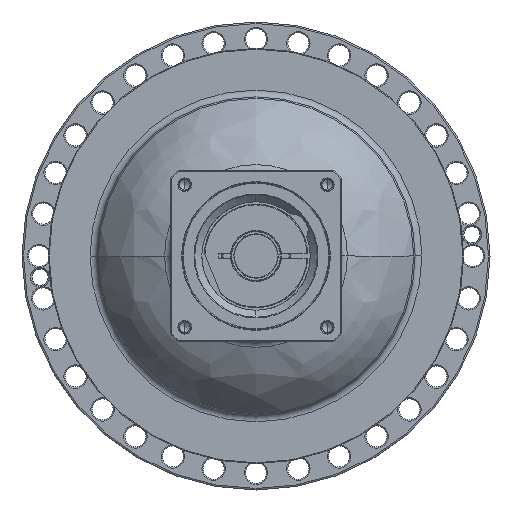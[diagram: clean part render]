
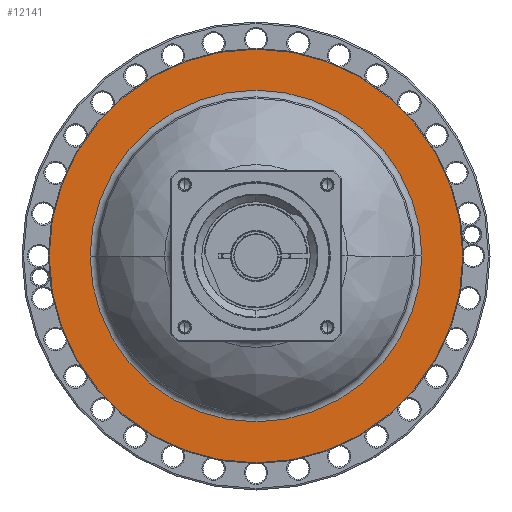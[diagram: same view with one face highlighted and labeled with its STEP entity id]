
A CAD part, left-side view. The second image highlights one B-rep face of the part: STEP entity #12141.
In plain terms, the highlighted planar face has unit normal (-1, 0, 0) as drawn and (1, 0, 0) by its records, which use the part's own axes.
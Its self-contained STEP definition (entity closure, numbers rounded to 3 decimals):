
#11644=CARTESIAN_POINT('',(-48.,0.,0.));
#11645=DIRECTION('',(-1.,0.,0.));
#11646=DIRECTION('',(0.,1.,0.));
#11647=AXIS2_PLACEMENT_3D('',#11644,#11645,#11646);
#11659=CARTESIAN_POINT('',(-48.,0.,0.));
#11660=DIRECTION('',(1.,0.,0.));
#11661=DIRECTION('',(0.,1.,0.));
#11662=AXIS2_PLACEMENT_3D('',#11659,#11660,#11661);
#11664=CARTESIAN_POINT('',(-48.,0.,0.));
#11665=DIRECTION('',(-1.,0.,0.));
#11666=DIRECTION('',(0.,-1.,0.));
#11667=AXIS2_PLACEMENT_3D('',#11664,#11665,#11666);
#11669=CARTESIAN_POINT('',(-48.,0.,0.));
#11670=DIRECTION('',(-1.,0.,0.));
#11671=DIRECTION('',(0.,1.,0.));
#11672=AXIS2_PLACEMENT_3D('',#11669,#11670,#11671);
#11794=CARTESIAN_POINT('',(-48.,-133.5,0.));
#11795=CARTESIAN_POINT('',(-48.,133.5,0.));
#11796=VERTEX_POINT('',#11794);
#11797=VERTEX_POINT('',#11795);
#11818=CARTESIAN_POINT('',(-48.,107.,0.));
#11819=CARTESIAN_POINT('',(-48.,-107.,0.));
#11820=VERTEX_POINT('',#11818);
#11821=VERTEX_POINT('',#11819);
#12126=CARTESIAN_POINT('',(-48.,0.,0.));
#12127=DIRECTION('',(1.,0.,0.));
#12128=DIRECTION('',(0.,-1.,0.));
#12129=AXIS2_PLACEMENT_3D('',#12126,#12127,#12128);
#12130=PLANE('',#12129);
#12132=ORIENTED_EDGE('',*,*,#12131,.T.);
#12134=ORIENTED_EDGE('',*,*,#12133,.T.);
#12135=EDGE_LOOP('',(#12132,#12134));
#12136=FACE_OUTER_BOUND('',#12135,.F.);
#12137=ORIENTED_EDGE('',*,*,#12120,.T.);
#12138=ORIENTED_EDGE('',*,*,#12106,.F.);
#12139=EDGE_LOOP('',(#12137,#12138));
#12140=FACE_BOUND('',#12139,.F.);
#12141=ADVANCED_FACE('',(#12136,#12140),#12130,.T.);
#11648=CIRCLE('',#11647,107.);
#11663=CIRCLE('',#11662,107.);
#11668=CIRCLE('',#11667,133.5);
#11673=CIRCLE('',#11672,133.5);
#12106=EDGE_CURVE('',#11820,#11821,#11648,.T.);
#12120=EDGE_CURVE('',#11820,#11821,#11663,.T.);
#12131=EDGE_CURVE('',#11796,#11797,#11668,.T.);
#12133=EDGE_CURVE('',#11797,#11796,#11673,.T.);
